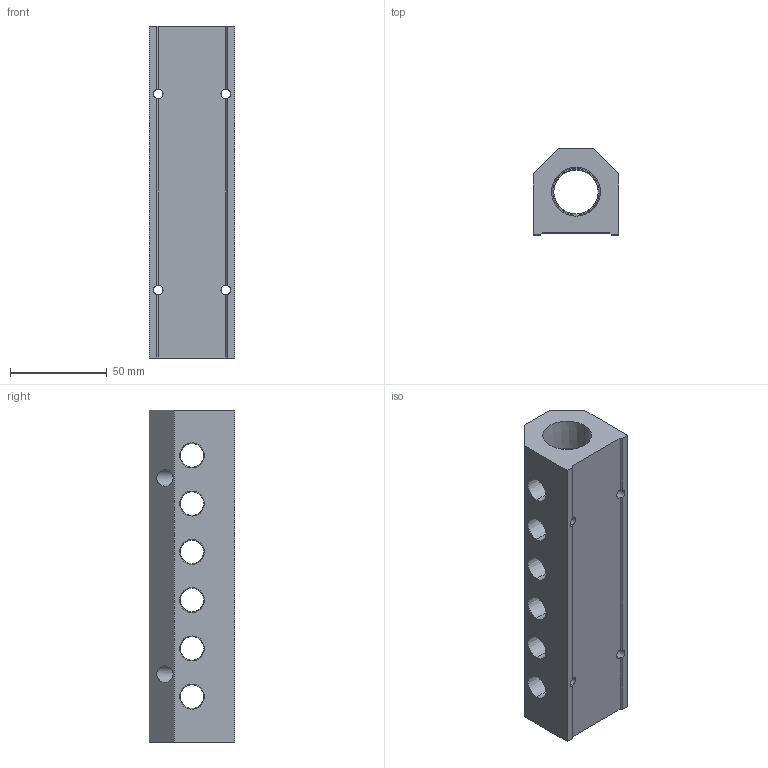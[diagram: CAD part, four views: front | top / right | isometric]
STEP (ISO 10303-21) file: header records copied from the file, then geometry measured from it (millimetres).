
FILE_DESCRIPTION (( 'STEP AP214' ), '1' );
FILE_NAME ('ALM6ACE-N4N12-172R.step', '2022-02-06T14:06:10', ( '' ), ( '' ), 'SwSTEP 2.0', 'SolidWorks 2020', '' );
FILE_SCHEMA (( 'AUTOMOTIVE_DESIGN' ));
Length unit declared in the file: millimetre
Products named in the file (1): ALM6ACE-N4N12-172R
Bounding box: 44.5 x 44.5 x 172 mm (x, y, z)
Volume: 203156.1 mm3; surface area: 49298 mm2
Topology: 1 solids, 1 shells, 328 faces, 895 edges, 586 vertices
Faces by surface type: plane 221, cone 46, bspline 39, cylinder 22
Entity records: 17587 total; most frequent: CARTESIAN_POINT 6533, ORIENTED_EDGE 1790, DIRECTION 1405, EDGE_CURVE 895, LINE 657, VECTOR 657, VERTEX_POINT 586, EDGE_LOOP 391
